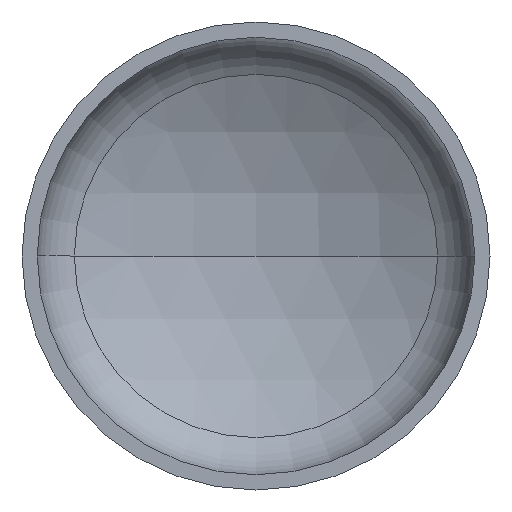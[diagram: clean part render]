
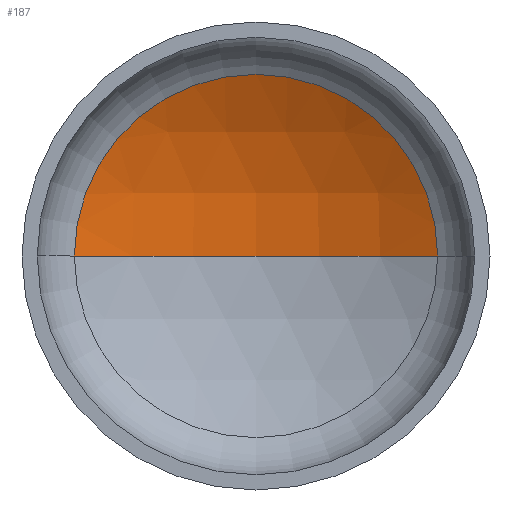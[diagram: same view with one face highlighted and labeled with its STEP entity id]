
A CAD part, front view. The second image highlights one B-rep face of the part: STEP entity #187.
In plain terms, the highlighted spherical face has radius 1920 mm.
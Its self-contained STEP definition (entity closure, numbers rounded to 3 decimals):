
#24 = AXIS2_PLACEMENT_3D ( 'NONE', #302, #137, #318 ) ;
#29 = AXIS2_PLACEMENT_3D ( 'NONE', #381, #263, #399 ) ;
#51 = AXIS2_PLACEMENT_3D ( 'NONE', #175, #340, #206 ) ;
#54 = AXIS2_PLACEMENT_3D ( 'NONE', #118, #208, #254 ) ;
#95 = VERTEX_POINT ( 'NONE', #216 ) ;
#99 = CARTESIAN_POINT ( 'NONE',  ( 931.51, 443.537, 0. ) ) ;
#112 = ORIENTED_EDGE ( 'NONE', *, *, #352, .T. ) ;
#118 = CARTESIAN_POINT ( 'NONE',  ( 0., -1235.358, 0. ) ) ;
#137 = DIRECTION ( 'NONE',  ( 0., 0., 1. ) ) ;
#141 = VERTEX_POINT ( 'NONE', #99 ) ;
#143 = EDGE_LOOP ( 'NONE', ( #167, #157, #112 ) ) ;
#157 = ORIENTED_EDGE ( 'NONE', *, *, #355, .T. ) ;
#167 = ORIENTED_EDGE ( 'NONE', *, *, #356, .F. ) ;
#175 = CARTESIAN_POINT ( 'NONE',  ( 0., 443.537, 0. ) ) ;
#187 = ADVANCED_FACE ( 'NONE', ( #192 ), #311, .F. ) ;
#192 = FACE_OUTER_BOUND ( 'NONE', #143, .T. ) ;
#206 = DIRECTION ( 'NONE',  ( 1., 0., 0. ) ) ;
#208 = DIRECTION ( 'NONE',  ( 0., 0., -1. ) ) ;
#211 = VERTEX_POINT ( 'NONE', #239 ) ;
#216 = CARTESIAN_POINT ( 'NONE',  ( 0., 684.642, 0. ) ) ;
#239 = CARTESIAN_POINT ( 'NONE',  ( -931.51, 443.537, 0. ) ) ;
#254 = DIRECTION ( 'NONE',  ( -1., 0., 0. ) ) ;
#263 = DIRECTION ( 'NONE',  ( 0., 0., -1. ) ) ;
#302 = CARTESIAN_POINT ( 'NONE',  ( 0., -1235.358, 0. ) ) ;
#311 = SPHERICAL_SURFACE ( 'NONE', #54, 1920. ) ;
#318 = DIRECTION ( 'NONE',  ( 1., 0., 0. ) ) ;
#338 = CIRCLE ( 'NONE', #51, 931.51 ) ;
#340 = DIRECTION ( 'NONE',  ( 0., -1., 0. ) ) ;
#352 = EDGE_CURVE ( 'NONE', #141, #211, #338, .T. ) ;
#355 = EDGE_CURVE ( 'NONE', #95, #141, #393, .T. ) ;
#356 = EDGE_CURVE ( 'NONE', #95, #211, #390, .T. ) ;
#381 = CARTESIAN_POINT ( 'NONE',  ( 0., -1235.358, 0. ) ) ;
#390 = CIRCLE ( 'NONE', #24, 1920. ) ;
#393 = CIRCLE ( 'NONE', #29, 1920. ) ;
#399 = DIRECTION ( 'NONE',  ( -1., 0., 0. ) ) ;
